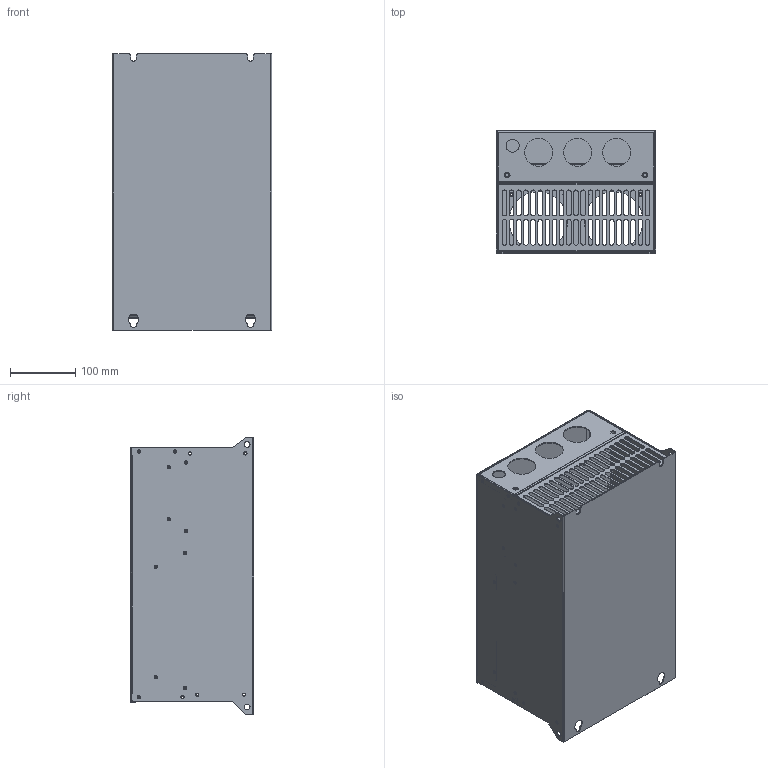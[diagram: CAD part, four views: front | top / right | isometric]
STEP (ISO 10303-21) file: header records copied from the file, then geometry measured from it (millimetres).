
FILE_DESCRIPTION (( 'STEP AP214' ), '1' );
FILE_NAME ('SPN_30_37KW_380V.STEP', '2022-09-12T20:52:07', ( '' ), ( '' ), 'SwSTEP 2.0', 'SolidWorks 2017', '' );
FILE_SCHEMA (( 'AUTOMOTIVE_DESIGN' ));
Length unit declared in the file: millimetre
Products named in the file (1): SPN_30_37KW_380V
Bounding box: 245 x 189.5 x 425 mm (x, y, z)
Volume: 632065.2 mm3; surface area: 964741.6 mm2
Topology: 19 solids, 19 shells, 1026 faces, 2755 edges, 1838 vertices
Faces by surface type: cylinder 538, plane 430, cone 48, bspline 10
Entity records: 36196 total; most frequent: CARTESIAN_POINT 8687, DIRECTION 5859, ORIENTED_EDGE 5510, EDGE_CURVE 2755, AXIS2_PLACEMENT_3D 2181, VERTEX_POINT 1838, VECTOR 1497, LINE 1497
